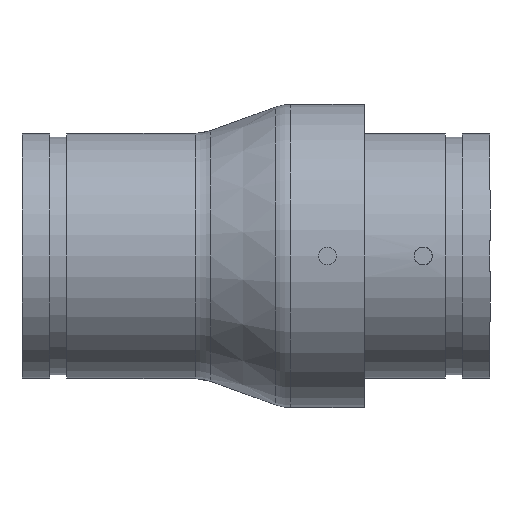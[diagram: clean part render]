
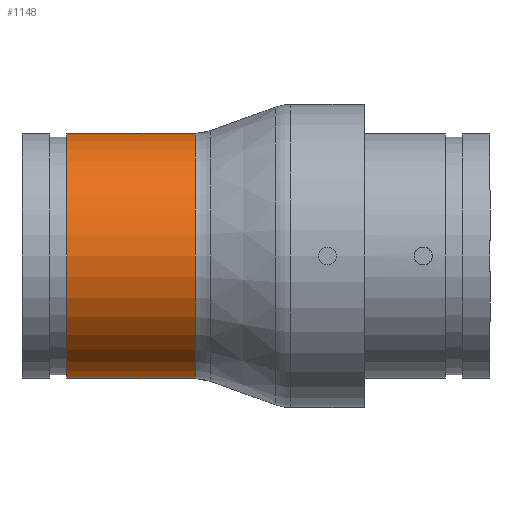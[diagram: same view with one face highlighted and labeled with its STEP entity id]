
A CAD part, front view. The second image highlights one B-rep face of the part: STEP entity #1148.
In plain terms, the highlighted cylindrical face has radius 69.85 mm (diameter 139.7 mm), a full revolution.
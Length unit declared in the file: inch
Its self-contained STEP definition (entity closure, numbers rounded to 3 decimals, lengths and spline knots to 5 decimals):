
#27=B_SPLINE_CURVE_WITH_KNOTS('',3,(#1947,#1948,#1949,#1950,#1951,#1952,
#1953,#1954,#1955,#1956,#1957,#1958,#1959,#1960,#1961,#1962,#1963,#1964),
 .UNSPECIFIED.,.F.,.F.,(4,2,2,2,2,2,2,2,4),(23.03504,23.87892,
24.99493,26.11093,27.22693,28.34293,29.45894,
30.57494,31.41882),.UNSPECIFIED.);
#94=CIRCLE('',#1279,2.75);
#95=CIRCLE('',#1280,2.75);
#102=CIRCLE('',#1290,2.75);
#103=CIRCLE('',#1291,2.75);
#104=CIRCLE('',#1293,2.75);
#105=CIRCLE('',#1294,2.75);
#170=FACE_OUTER_BOUND('',#236,.T.);
#236=EDGE_LOOP('',(#890,#891,#892,#893,#894,#895,#896,#897,#898,#899,#900));
#287=ELLIPSE('',#1289,10.66373,2.75);
#288=ELLIPSE('',#1292,10.66373,2.75);
#351=LINE('',#1999,#424);
#424=VECTOR('',#1594,2.75);
#501=VERTEX_POINT('',#1944);
#502=VERTEX_POINT('',#1946);
#505=VERTEX_POINT('',#1974);
#506=VERTEX_POINT('',#1975);
#507=VERTEX_POINT('',#1977);
#512=VERTEX_POINT('',#1992);
#513=VERTEX_POINT('',#1995);
#514=VERTEX_POINT('',#1998);
#515=VERTEX_POINT('',#2000);
#639=EDGE_CURVE('',#502,#501,#27,.T.);
#644=EDGE_CURVE('',#505,#506,#94,.T.);
#645=EDGE_CURVE('',#506,#507,#95,.T.);
#653=EDGE_CURVE('',#512,#505,#287,.T.);
#654=EDGE_CURVE('',#512,#502,#102,.T.);
#655=EDGE_CURVE('',#501,#513,#103,.T.);
#656=EDGE_CURVE('',#507,#513,#288,.T.);
#657=EDGE_CURVE('',#506,#514,#351,.T.);
#658=EDGE_CURVE('',#514,#515,#104,.T.);
#659=EDGE_CURVE('',#515,#514,#105,.T.);
#890=ORIENTED_EDGE('',*,*,#644,.F.);
#891=ORIENTED_EDGE('',*,*,#653,.F.);
#892=ORIENTED_EDGE('',*,*,#654,.T.);
#893=ORIENTED_EDGE('',*,*,#639,.T.);
#894=ORIENTED_EDGE('',*,*,#655,.T.);
#895=ORIENTED_EDGE('',*,*,#656,.F.);
#896=ORIENTED_EDGE('',*,*,#645,.F.);
#897=ORIENTED_EDGE('',*,*,#657,.T.);
#898=ORIENTED_EDGE('',*,*,#658,.T.);
#899=ORIENTED_EDGE('',*,*,#659,.T.);
#900=ORIENTED_EDGE('',*,*,#657,.F.);
#1032=CYLINDRICAL_SURFACE('',#1288,2.75);
#1148=ADVANCED_FACE('',(#170),#1032,.T.);
#1279=AXIS2_PLACEMENT_3D('',#1976,#1565,#1566);
#1280=AXIS2_PLACEMENT_3D('',#1978,#1567,#1568);
#1288=AXIS2_PLACEMENT_3D('',#1991,#1584,#1585);
#1289=AXIS2_PLACEMENT_3D('',#1993,#1586,#1587);
#1290=AXIS2_PLACEMENT_3D('',#1994,#1588,#1589);
#1291=AXIS2_PLACEMENT_3D('',#1996,#1590,#1591);
#1292=AXIS2_PLACEMENT_3D('',#1997,#1592,#1593);
#1293=AXIS2_PLACEMENT_3D('',#2001,#1595,#1596);
#1294=AXIS2_PLACEMENT_3D('',#2002,#1597,#1598);
#1565=DIRECTION('center_axis',(1.,0.,0.));
#1566=DIRECTION('ref_axis',(0.,-1.,0.));
#1567=DIRECTION('center_axis',(1.,0.,0.));
#1568=DIRECTION('ref_axis',(0.,-1.,0.));
#1584=DIRECTION('center_axis',(1.,0.,0.));
#1585=DIRECTION('ref_axis',(0.,1.,0.));
#1586=DIRECTION('center_axis',(0.258,0.,-0.966));
#1587=DIRECTION('ref_axis',(0.966,0.,0.258));
#1588=DIRECTION('center_axis',(-1.,0.,0.));
#1589=DIRECTION('ref_axis',(0.,1.,0.));
#1590=DIRECTION('center_axis',(-1.,0.,0.));
#1591=DIRECTION('ref_axis',(0.,1.,0.));
#1592=DIRECTION('center_axis',(0.258,0.,0.966));
#1593=DIRECTION('ref_axis',(0.966,0.,-0.258));
#1594=DIRECTION('',(-1.,0.,0.));
#1595=DIRECTION('center_axis',(1.,0.,0.));
#1596=DIRECTION('ref_axis',(0.,0.,-1.));
#1597=DIRECTION('center_axis',(1.,0.,0.));
#1598=DIRECTION('ref_axis',(0.,0.,-1.));
#1944=CARTESIAN_POINT('',(2.35,2.30983,-1.49238));
#1946=CARTESIAN_POINT('',(2.35,2.30983,1.49238));
#1947=CARTESIAN_POINT('Ctrl Pts',(2.35,2.30983,1.49238));
#1948=CARTESIAN_POINT('Ctrl Pts',(2.28133,2.35829,1.41738));
#1949=CARTESIAN_POINT('Ctrl Pts',(2.21571,2.40614,1.33523));
#1950=CARTESIAN_POINT('Ctrl Pts',(2.07546,2.51055,1.12998));
#1951=CARTESIAN_POINT('Ctrl Pts',(2.00478,2.56487,1.00213));
#1952=CARTESIAN_POINT('Ctrl Pts',(1.88934,2.6548,0.73137));
#1953=CARTESIAN_POINT('Ctrl Pts',(1.84447,2.69046,0.58813));
#1954=CARTESIAN_POINT('Ctrl Pts',(1.78479,2.73807,0.29568));
#1955=CARTESIAN_POINT('Ctrl Pts',(1.77,2.75,0.14646));
#1956=CARTESIAN_POINT('Ctrl Pts',(1.77,2.75,-0.14646));
#1957=CARTESIAN_POINT('Ctrl Pts',(1.78479,2.73807,-0.29568));
#1958=CARTESIAN_POINT('Ctrl Pts',(1.84447,2.69046,-0.58813));
#1959=CARTESIAN_POINT('Ctrl Pts',(1.88934,2.6548,-0.73137));
#1960=CARTESIAN_POINT('Ctrl Pts',(2.00478,2.56487,-1.00213));
#1961=CARTESIAN_POINT('Ctrl Pts',(2.07546,2.51055,-1.12998));
#1962=CARTESIAN_POINT('Ctrl Pts',(2.21571,2.40614,-1.33523));
#1963=CARTESIAN_POINT('Ctrl Pts',(2.28133,2.35829,-1.41738));
#1964=CARTESIAN_POINT('Ctrl Pts',(2.35,2.30983,-1.49238));
#1974=CARTESIAN_POINT('',(3.88781,0.,2.75));
#1975=CARTESIAN_POINT('',(3.88781,-2.75,0.));
#1976=CARTESIAN_POINT('Origin',(3.88781,0.,0.));
#1977=CARTESIAN_POINT('',(3.88781,0.,-2.75));
#1978=CARTESIAN_POINT('Origin',(3.88781,0.,0.));
#1991=CARTESIAN_POINT('Origin',(5.25,0.,0.));
#1992=CARTESIAN_POINT('',(2.35,1.44536,2.33954));
#1993=CARTESIAN_POINT('Origin',(-6.41523,0.,0.));
#1994=CARTESIAN_POINT('Origin',(2.35,0.,0.));
#1995=CARTESIAN_POINT('',(2.35,1.44536,-2.33954));
#1996=CARTESIAN_POINT('Origin',(2.35,0.,0.));
#1997=CARTESIAN_POINT('Origin',(-6.41523,0.,0.));
#1998=CARTESIAN_POINT('',(1.,-2.75,0.));
#1999=CARTESIAN_POINT('',(5.25,-2.75,0.));
#2000=CARTESIAN_POINT('',(1.,2.75,0.));
#2001=CARTESIAN_POINT('Origin',(1.,0.,0.));
#2002=CARTESIAN_POINT('Origin',(1.,0.,0.));
